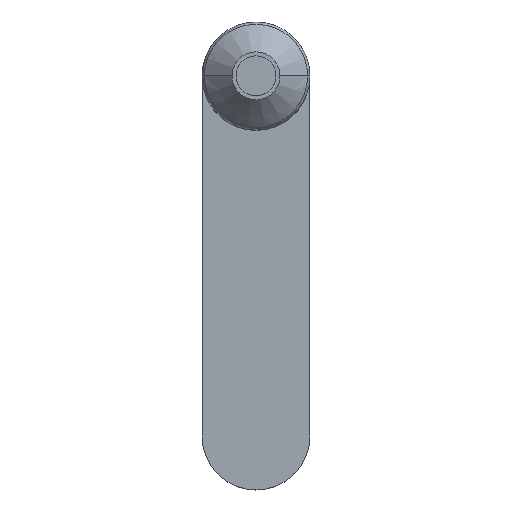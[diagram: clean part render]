
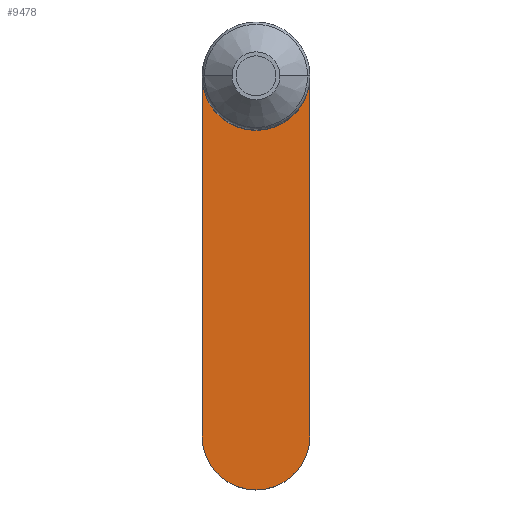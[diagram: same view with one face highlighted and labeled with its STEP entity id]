
A CAD part, top view. The second image highlights one B-rep face of the part: STEP entity #9478.
In plain terms, the highlighted planar face has unit normal (0, 0, 1).
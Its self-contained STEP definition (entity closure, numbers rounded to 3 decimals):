
#194 = DIRECTION ( 'NONE',  ( 0., 0., 1. ) ) ;
#212 = DIRECTION ( 'NONE',  ( 0., -1., 0. ) ) ;
#276 = DIRECTION ( 'NONE',  ( 0., 0., -1. ) ) ;
#688 = ORIENTED_EDGE ( 'NONE', *, *, #4451, .T. ) ;
#1896 = CIRCLE ( 'NONE', #11362, 13.5 ) ;
#2083 = CARTESIAN_POINT ( 'NONE',  ( 13.5, 0., 15. ) ) ;
#2132 = ORIENTED_EDGE ( 'NONE', *, *, #6191, .T. ) ;
#2254 = CARTESIAN_POINT ( 'NONE',  ( 0., 0., 15. ) ) ;
#2670 = LINE ( 'NONE', #2083, #10764 ) ;
#2986 = CARTESIAN_POINT ( 'NONE',  ( 0., -13.5, 15. ) ) ;
#2999 = VERTEX_POINT ( 'NONE', #2986 ) ;
#3106 = AXIS2_PLACEMENT_3D ( 'NONE', #3357, #194, #7088 ) ;
#3357 = CARTESIAN_POINT ( 'NONE',  ( 0., -90., 15. ) ) ;
#3553 = CIRCLE ( 'NONE', #9666, 13.5 ) ;
#4309 = CARTESIAN_POINT ( 'NONE',  ( 13.5, -90., 15. ) ) ;
#4438 = EDGE_CURVE ( 'NONE', #2999, #6108, #3553, .T. ) ;
#4451 = EDGE_CURVE ( 'NONE', #6108, #11272, #9585, .T. ) ;
#4638 = DIRECTION ( 'NONE',  ( 0., 0., -1. ) ) ;
#4795 = VERTEX_POINT ( 'NONE', #8526 ) ;
#4977 = VERTEX_POINT ( 'NONE', #4309 ) ;
#5140 = EDGE_CURVE ( 'NONE', #11272, #4977, #8338, .T. ) ;
#5206 = ORIENTED_EDGE ( 'NONE', *, *, #8600, .T. ) ;
#5595 = CARTESIAN_POINT ( 'NONE',  ( 0., 0., 15. ) ) ;
#5636 = DIRECTION ( 'NONE',  ( 0., 1., 0. ) ) ;
#5696 = ORIENTED_EDGE ( 'NONE', *, *, #5140, .T. ) ;
#6108 = VERTEX_POINT ( 'NONE', #6286 ) ;
#6191 = EDGE_CURVE ( 'NONE', #4795, #2999, #1896, .T. ) ;
#6286 = CARTESIAN_POINT ( 'NONE',  ( -13.5, 0., 15. ) ) ;
#6992 = CARTESIAN_POINT ( 'NONE',  ( -13.5, -90., 15. ) ) ;
#7088 = DIRECTION ( 'NONE',  ( 0., -1., 0. ) ) ;
#7662 = VECTOR ( 'NONE', #9030, 1000. ) ;
#8338 = CIRCLE ( 'NONE', #9738, 13.5 ) ;
#8526 = CARTESIAN_POINT ( 'NONE',  ( 13.5, 0., 15. ) ) ;
#8600 = EDGE_CURVE ( 'NONE', #4977, #4795, #2670, .T. ) ;
#9030 = DIRECTION ( 'NONE',  ( 0., -1., 0. ) ) ;
#9218 = FACE_OUTER_BOUND ( 'NONE', #10483, .T. ) ;
#9478 = ADVANCED_FACE ( 'NONE', ( #9218 ), #10510, .T. ) ;
#9485 = DIRECTION ( 'NONE',  ( 0., 0., 1. ) ) ;
#9585 = LINE ( 'NONE', #9879, #7662 ) ;
#9666 = AXIS2_PLACEMENT_3D ( 'NONE', #5595, #4638, #212 ) ;
#9738 = AXIS2_PLACEMENT_3D ( 'NONE', #11256, #9485, #11222 ) ;
#9879 = CARTESIAN_POINT ( 'NONE',  ( -13.5, 0., 15. ) ) ;
#10295 = ORIENTED_EDGE ( 'NONE', *, *, #4438, .T. ) ;
#10483 = EDGE_LOOP ( 'NONE', ( #5206, #2132, #10295, #688, #5696 ) ) ;
#10510 = PLANE ( 'NONE',  #3106 ) ;
#10764 = VECTOR ( 'NONE', #5636, 1000. ) ;
#10963 = DIRECTION ( 'NONE',  ( 0., -1., 0. ) ) ;
#11222 = DIRECTION ( 'NONE',  ( 0., -1., 0. ) ) ;
#11256 = CARTESIAN_POINT ( 'NONE',  ( 0., -90., 15. ) ) ;
#11272 = VERTEX_POINT ( 'NONE', #6992 ) ;
#11362 = AXIS2_PLACEMENT_3D ( 'NONE', #2254, #276, #10963 ) ;
